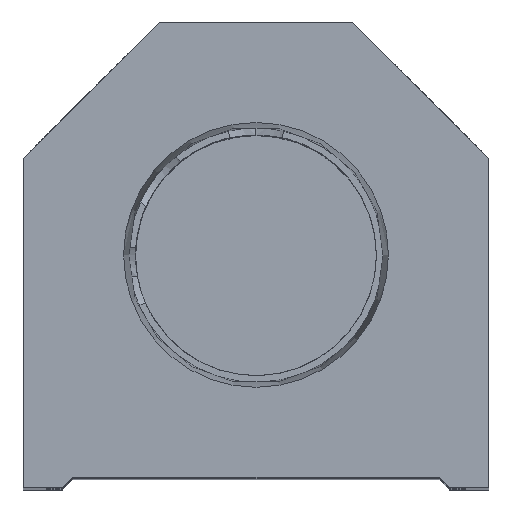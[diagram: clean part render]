
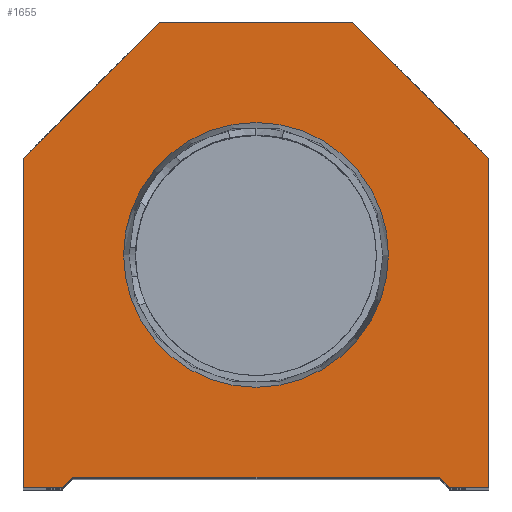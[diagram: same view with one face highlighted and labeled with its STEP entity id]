
A CAD part, top view. The second image highlights one B-rep face of the part: STEP entity #1655.
In plain terms, the highlighted planar face has unit normal (0, 0, 1).
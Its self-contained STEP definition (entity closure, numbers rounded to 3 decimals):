
#520 = ORIENTED_EDGE ( 'NONE', *, *, #20595, .T. ) ;
#776 = CARTESIAN_POINT ( 'NONE',  ( -17.5, 0., 0. ) ) ;
#848 = LINE ( 'NONE', #10886, #20033 ) ;
#966 = CARTESIAN_POINT ( 'NONE',  ( -12.647, 22.25, 0. ) ) ;
#1046 = VERTEX_POINT ( 'NONE', #15418 ) ;
#1226 = AXIS2_PLACEMENT_3D ( 'NONE', #13615, #20529, #12400 ) ;
#1655 = ADVANCED_FACE ( 'NONE', ( #13931, #20628 ), #2240, .T. ) ;
#1924 = EDGE_CURVE ( 'NONE', #5451, #19356, #17702, .T. ) ;
#2240 = PLANE ( 'NONE',  #19030 ) ;
#2271 = CARTESIAN_POINT ( 'NONE',  ( 22.25, 31.5, 0. ) ) ;
#2386 = ORIENTED_EDGE ( 'NONE', *, *, #1924, .T. ) ;
#2791 = CARTESIAN_POINT ( 'NONE',  ( -22.25, 0., 0. ) ) ;
#3866 = CARTESIAN_POINT ( 'NONE',  ( -22.25, 31.5, 0. ) ) ;
#4188 = DIRECTION ( 'NONE',  ( 1., 0., 0. ) ) ;
#4490 = LINE ( 'NONE', #21107, #19639 ) ;
#4847 = VERTEX_POINT ( 'NONE', #966 ) ;
#5030 = VERTEX_POINT ( 'NONE', #5144 ) ;
#5109 = CARTESIAN_POINT ( 'NONE',  ( -17.5, 1., 0. ) ) ;
#5144 = CARTESIAN_POINT ( 'NONE',  ( -22.25, 31.5, 0. ) ) ;
#5405 = DIRECTION ( 'NONE',  ( -0.707, -0.707, 0. ) ) ;
#5451 = VERTEX_POINT ( 'NONE', #6593 ) ;
#5803 = EDGE_CURVE ( 'NONE', #1046, #4847, #17116, .T. ) ;
#5880 = VECTOR ( 'NONE', #11917, 1000. ) ;
#6193 = ORIENTED_EDGE ( 'NONE', *, *, #16859, .T. ) ;
#6454 = EDGE_CURVE ( 'NONE', #13106, #11847, #11030, .T. ) ;
#6458 = CARTESIAN_POINT ( 'NONE',  ( -17.5, 1., 0. ) ) ;
#6480 = CIRCLE ( 'NONE', #1226, 12.647 ) ;
#6515 = DIRECTION ( 'NONE',  ( -1., 0., 0. ) ) ;
#6593 = CARTESIAN_POINT ( 'NONE',  ( 22.25, 31.5, 0. ) ) ;
#6668 = ORIENTED_EDGE ( 'NONE', *, *, #6454, .T. ) ;
#7696 = ORIENTED_EDGE ( 'NONE', *, *, #8115, .F. ) ;
#7786 = DIRECTION ( 'NONE',  ( 0.707, -0.707, 0. ) ) ;
#7838 = EDGE_CURVE ( 'NONE', #5030, #14579, #12024, .T. ) ;
#7849 = DIRECTION ( 'NONE',  ( 1., 0., 0. ) ) ;
#8098 = EDGE_LOOP ( 'NONE', ( #520, #6668, #8856, #14839, #14104, #20262, #2386, #6193, #8199, #13607 ) ) ;
#8115 = EDGE_CURVE ( 'NONE', #4847, #1046, #6480, .T. ) ;
#8199 = ORIENTED_EDGE ( 'NONE', *, *, #20539, .T. ) ;
#8257 = LINE ( 'NONE', #11805, #8390 ) ;
#8390 = VECTOR ( 'NONE', #20054, 1000. ) ;
#8593 = EDGE_LOOP ( 'NONE', ( #9832, #7696 ) ) ;
#8856 = ORIENTED_EDGE ( 'NONE', *, *, #9010, .T. ) ;
#8956 = CARTESIAN_POINT ( 'NONE',  ( 0., 0., 0. ) ) ;
#9006 = AXIS2_PLACEMENT_3D ( 'NONE', #10558, #10110, #15610 ) ;
#9010 = EDGE_CURVE ( 'NONE', #11847, #18837, #11098, .T. ) ;
#9335 = DIRECTION ( 'NONE',  ( 1., 0., 0. ) ) ;
#9832 = ORIENTED_EDGE ( 'NONE', *, *, #5803, .F. ) ;
#10110 = DIRECTION ( 'NONE',  ( 0., 0., 1. ) ) ;
#10203 = VECTOR ( 'NONE', #4188, 1000. ) ;
#10373 = CARTESIAN_POINT ( 'NONE',  ( -22.25, 0., 0. ) ) ;
#10501 = CARTESIAN_POINT ( 'NONE',  ( -9.25, 44.5, 0. ) ) ;
#10558 = CARTESIAN_POINT ( 'NONE',  ( 0., 22.25, 0. ) ) ;
#10886 = CARTESIAN_POINT ( 'NONE',  ( 17.5, 0., 0. ) ) ;
#11030 = LINE ( 'NONE', #19413, #14340 ) ;
#11098 = LINE ( 'NONE', #6458, #11825 ) ;
#11213 = DIRECTION ( 'NONE',  ( 1., 0., 0. ) ) ;
#11466 = DIRECTION ( 'NONE',  ( 0.707, 0.707, 0. ) ) ;
#11805 = CARTESIAN_POINT ( 'NONE',  ( 22.25, 0., 0. ) ) ;
#11825 = VECTOR ( 'NONE', #11213, 1000. ) ;
#11847 = VERTEX_POINT ( 'NONE', #5109 ) ;
#11917 = DIRECTION ( 'NONE',  ( 0., -1., 0. ) ) ;
#12024 = LINE ( 'NONE', #10373, #5880 ) ;
#12054 = CARTESIAN_POINT ( 'NONE',  ( 22.25, 0., 0. ) ) ;
#12295 = VECTOR ( 'NONE', #5405, 1000. ) ;
#12400 = DIRECTION ( 'NONE',  ( 1., 0., 0. ) ) ;
#13106 = VERTEX_POINT ( 'NONE', #21718 ) ;
#13607 = ORIENTED_EDGE ( 'NONE', *, *, #7838, .T. ) ;
#13615 = CARTESIAN_POINT ( 'NONE',  ( 0., 22.25, 0. ) ) ;
#13931 = FACE_BOUND ( 'NONE', #8593, .T. ) ;
#14104 = ORIENTED_EDGE ( 'NONE', *, *, #21033, .T. ) ;
#14308 = CARTESIAN_POINT ( 'NONE',  ( 17.5, 1., 0. ) ) ;
#14340 = VECTOR ( 'NONE', #11466, 1000. ) ;
#14579 = VERTEX_POINT ( 'NONE', #2791 ) ;
#14699 = VECTOR ( 'NONE', #6515, 1000. ) ;
#14839 = ORIENTED_EDGE ( 'NONE', *, *, #17000, .T. ) ;
#14901 = CARTESIAN_POINT ( 'NONE',  ( 9.25, 44.5, 0. ) ) ;
#15289 = VERTEX_POINT ( 'NONE', #10501 ) ;
#15418 = CARTESIAN_POINT ( 'NONE',  ( 12.647, 22.25, 0. ) ) ;
#15432 = LINE ( 'NONE', #3866, #12295 ) ;
#15551 = VECTOR ( 'NONE', #15726, 1000. ) ;
#15610 = DIRECTION ( 'NONE',  ( 1., 0., 0. ) ) ;
#15726 = DIRECTION ( 'NONE',  ( -0.707, 0.707, 0. ) ) ;
#16240 = DIRECTION ( 'NONE',  ( 0., 0., 1. ) ) ;
#16840 = CARTESIAN_POINT ( 'NONE',  ( 18.5, 0., 0. ) ) ;
#16859 = EDGE_CURVE ( 'NONE', #19356, #15289, #21385, .T. ) ;
#17000 = EDGE_CURVE ( 'NONE', #18837, #19836, #4490, .T. ) ;
#17116 = CIRCLE ( 'NONE', #9006, 12.647 ) ;
#17702 = LINE ( 'NONE', #2271, #15551 ) ;
#18837 = VERTEX_POINT ( 'NONE', #14308 ) ;
#19030 = AXIS2_PLACEMENT_3D ( 'NONE', #8956, #16240, #7849 ) ;
#19281 = LINE ( 'NONE', #776, #10203 ) ;
#19356 = VERTEX_POINT ( 'NONE', #19864 ) ;
#19413 = CARTESIAN_POINT ( 'NONE',  ( -9.25, 9.25, 0. ) ) ;
#19639 = VECTOR ( 'NONE', #7786, 1000. ) ;
#19836 = VERTEX_POINT ( 'NONE', #16840 ) ;
#19864 = CARTESIAN_POINT ( 'NONE',  ( 9.25, 44.5, 0. ) ) ;
#20033 = VECTOR ( 'NONE', #9335, 1000. ) ;
#20054 = DIRECTION ( 'NONE',  ( 0., 1., 0. ) ) ;
#20125 = VERTEX_POINT ( 'NONE', #12054 ) ;
#20262 = ORIENTED_EDGE ( 'NONE', *, *, #20461, .T. ) ;
#20461 = EDGE_CURVE ( 'NONE', #20125, #5451, #8257, .T. ) ;
#20529 = DIRECTION ( 'NONE',  ( 0., 0., 1. ) ) ;
#20539 = EDGE_CURVE ( 'NONE', #15289, #5030, #15432, .T. ) ;
#20595 = EDGE_CURVE ( 'NONE', #14579, #13106, #19281, .T. ) ;
#20628 = FACE_OUTER_BOUND ( 'NONE', #8098, .T. ) ;
#21033 = EDGE_CURVE ( 'NONE', #19836, #20125, #848, .T. ) ;
#21107 = CARTESIAN_POINT ( 'NONE',  ( 9.25, 9.25, 0. ) ) ;
#21385 = LINE ( 'NONE', #14901, #14699 ) ;
#21718 = CARTESIAN_POINT ( 'NONE',  ( -18.5, 0., 0. ) ) ;
